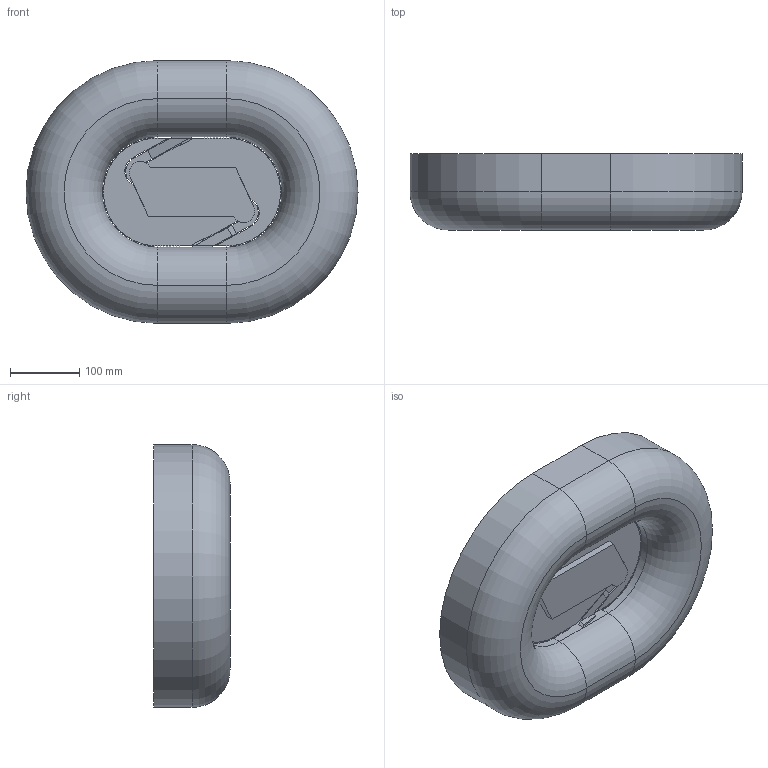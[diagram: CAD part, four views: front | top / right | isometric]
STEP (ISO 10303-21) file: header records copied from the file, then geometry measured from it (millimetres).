
FILE_DESCRIPTION(/* description */ (''),/* implementation_level */ '2;1');
FILE_NAME(/* name */ 'C:/cygwin64/home/katayama/Experiment-Using-Flowing-Noodle-Machine/CAD-Models/Space/FNM v3.stp',/* time_stamp */ '2015-12-01T01:08:23+09:00',/* author */ (''),/* organization */ (''),/* preprocessor_version */ 'ST-DEVELOPER v16.2',/* originating_system */ 'Autodesk Translation Framework v4.3.0.2260',/* authorisation */ '');
FILE_SCHEMA (('AUTOMOTIVE_DESIGN { 1 0 10303 214 3 1 1 }'));
Length unit declared in the file: centimetre
Products named in the file (4): FNM v3; コンポーネント11; コンポーネント12; コンポーネント13
Assembly tree (3 placements, depth 2):
  FNM v3
    コンポーネント11
    コンポーネント12
    コンポーネント13
Bounding box: 480 x 110 x 380 mm (x, y, z)
Volume: 12800662.8 mm3; surface area: 548371.2 mm2
Topology: 3 solids, 3 shells, 810 faces, 2720 edges, 1783 vertices
Faces by surface type: plane 750, cylinder 56, torus 4
Full cylindrical faces by diameter (mm): 9.5 x2, 11 x2, 21.5 x4
Entity records: 30009 total; most frequent: ORIENTED_EDGE 5406, CARTESIAN_POINT 5297, DIRECTION 4937, EDGE_CURVE 2703, LINE 2103, VECTOR 2103, VERTEX_POINT 1777, AXIS2_PLACEMENT_3D 1417
